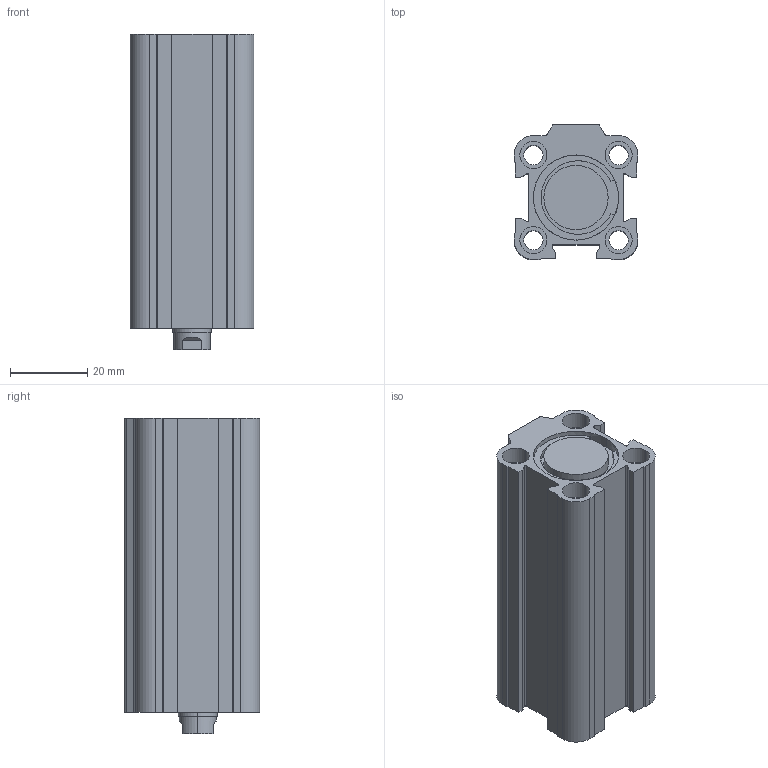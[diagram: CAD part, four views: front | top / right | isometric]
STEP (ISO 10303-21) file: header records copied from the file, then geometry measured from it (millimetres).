
FILE_DESCRIPTION((''),'2;1');
FILE_NAME('D11M20200040.stp','2010-02-13T19:17:45',('B. Petkovic 2010'),('AZ PNEUMATICA S.r.l.'),'Mechanical Desktop 2006','Mechanical Desktop 2006','Via Marco Biagi 6, I-20020 Misinto(MI) Italy, azpneu@tin.it');
FILE_SCHEMA(('CONFIG_CONTROL_DESIGN'));
Length unit declared in the file: millimetre
Products named in the file (2): D11M20200040; CORSA BREVE
Assembly tree (1 placements, depth 2):
  D11M20200040
    CORSA BREVE
Bounding box: 32 x 35 x 81.5 mm (x, y, z)
Volume: 61847.5 mm3; surface area: 19335.4 mm2
Topology: 1 solids, 1 shells, 158 faces, 392 edges, 256 vertices
Faces by surface type: cylinder 87, plane 71
Entity records: 4861 total; most frequent: DIRECTION 880, CARTESIAN_POINT 808, ORIENTED_EDGE 784, EDGE_CURVE 392, AXIS2_PLACEMENT_3D 328, VERTEX_POINT 256, VECTOR 224, LINE 224
